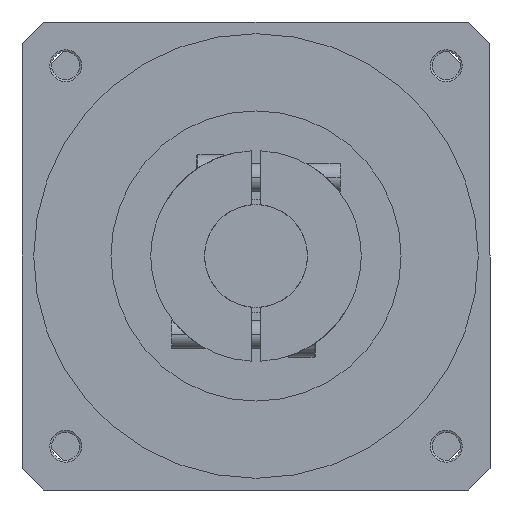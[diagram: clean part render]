
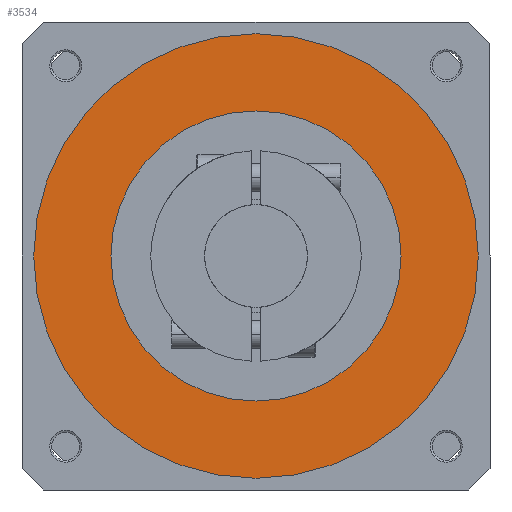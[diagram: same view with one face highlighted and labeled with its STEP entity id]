
A CAD part, front view. The second image highlights one B-rep face of the part: STEP entity #3534.
In plain terms, the highlighted planar face has unit normal (0, -1, 0).
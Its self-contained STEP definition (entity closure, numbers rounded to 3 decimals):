
#31 = VERTEX_POINT ( 'NONE', #632 ) ;
#58 = EDGE_CURVE ( 'NONE', #1592, #31, #3061, .T. ) ;
#62 = ORIENTED_EDGE ( 'NONE', *, *, #2689, .F. ) ;
#132 = CARTESIAN_POINT ( 'NONE',  ( 0., -137., 0. ) ) ;
#135 = EDGE_LOOP ( 'NONE', ( #62, #1841 ) ) ;
#448 = AXIS2_PLACEMENT_3D ( 'NONE', #4224, #1368, #4699 ) ;
#632 = CARTESIAN_POINT ( 'NONE',  ( 0., -137., 31. ) ) ;
#907 = ORIENTED_EDGE ( 'NONE', *, *, #5265, .T. ) ;
#1041 = DIRECTION ( 'NONE',  ( 0., -1., 0. ) ) ;
#1105 = CIRCLE ( 'NONE', #6087, 47.5 ) ;
#1368 = DIRECTION ( 'NONE',  ( 0., -1., 0. ) ) ;
#1388 = ORIENTED_EDGE ( 'NONE', *, *, #3028, .T. ) ;
#1592 = VERTEX_POINT ( 'NONE', #4702 ) ;
#1841 = ORIENTED_EDGE ( 'NONE', *, *, #58, .F. ) ;
#1966 = DIRECTION ( 'NONE',  ( 0., -1., 0. ) ) ;
#2107 = CARTESIAN_POINT ( 'NONE',  ( 0., -137., 47.5 ) ) ;
#2119 = FACE_OUTER_BOUND ( 'NONE', #3792, .T. ) ;
#2234 = DIRECTION ( 'NONE',  ( 0., -1., 0. ) ) ;
#2278 = AXIS2_PLACEMENT_3D ( 'NONE', #5100, #2234, #5570 ) ;
#2441 = PLANE ( 'NONE',  #5399 ) ;
#2464 = VERTEX_POINT ( 'NONE', #2107 ) ;
#2689 = EDGE_CURVE ( 'NONE', #31, #1592, #5457, .T. ) ;
#2981 = DIRECTION ( 'NONE',  ( 0., -1., 0. ) ) ;
#3028 = EDGE_CURVE ( 'NONE', #4757, #2464, #5557, .T. ) ;
#3061 = CIRCLE ( 'NONE', #3880, 31. ) ;
#3534 = ADVANCED_FACE ( 'NONE', ( #4519, #2119 ), #2441, .T. ) ;
#3792 = EDGE_LOOP ( 'NONE', ( #1388, #907 ) ) ;
#3880 = AXIS2_PLACEMENT_3D ( 'NONE', #132, #2981, #5864 ) ;
#3900 = CARTESIAN_POINT ( 'NONE',  ( 0., -137., 0. ) ) ;
#4138 = CARTESIAN_POINT ( 'NONE',  ( 0., -137., -47.5 ) ) ;
#4224 = CARTESIAN_POINT ( 'NONE',  ( 0., -137., 0. ) ) ;
#4372 = DIRECTION ( 'NONE',  ( 0., 0., -1. ) ) ;
#4519 = FACE_BOUND ( 'NONE', #135, .T. ) ;
#4699 = DIRECTION ( 'NONE',  ( 0., 0., -1. ) ) ;
#4702 = CARTESIAN_POINT ( 'NONE',  ( 0., -137., -31. ) ) ;
#4757 = VERTEX_POINT ( 'NONE', #4138 ) ;
#4835 = CARTESIAN_POINT ( 'NONE',  ( 0., -137., 0. ) ) ;
#5100 = CARTESIAN_POINT ( 'NONE',  ( 0., -137., 0. ) ) ;
#5265 = EDGE_CURVE ( 'NONE', #2464, #4757, #1105, .T. ) ;
#5308 = DIRECTION ( 'NONE',  ( 0., 0., -1. ) ) ;
#5399 = AXIS2_PLACEMENT_3D ( 'NONE', #3900, #1041, #4372 ) ;
#5457 = CIRCLE ( 'NONE', #448, 31. ) ;
#5557 = CIRCLE ( 'NONE', #2278, 47.5 ) ;
#5570 = DIRECTION ( 'NONE',  ( 0., 0., -1. ) ) ;
#5864 = DIRECTION ( 'NONE',  ( 0., 0., -1. ) ) ;
#6087 = AXIS2_PLACEMENT_3D ( 'NONE', #4835, #1966, #5308 ) ;
